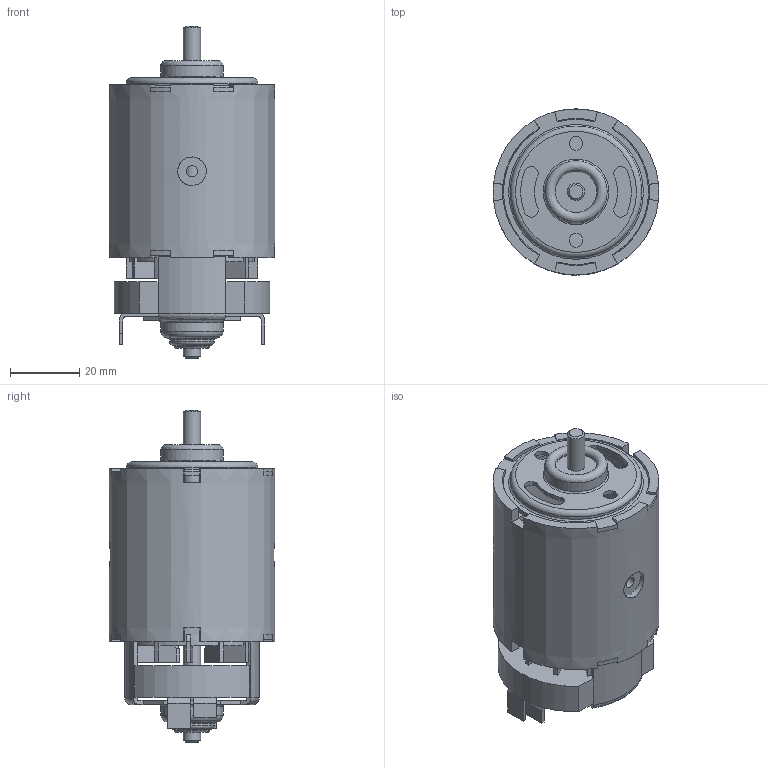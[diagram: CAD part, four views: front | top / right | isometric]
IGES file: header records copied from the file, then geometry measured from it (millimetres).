
Global section: file name: No Iges File Name specified; native system: AutoDesk Inventor R5.0; preprocessor: AutoDesk Inventor Iges Exporter R5.0; author: No Author specified; organization: No Organization specified; date: 20031213.125257; units: millimetre
Bounding box: 47.97 x 48 x 96 mm (x, y, z)
Surface area: 35663.8 mm2 (no closed solid volume)
Topology: 0 solids, 0 shells, 346 faces, 1840 edges, 1802 vertices
Faces by surface type: plane 232, revolution 61, bspline 53
